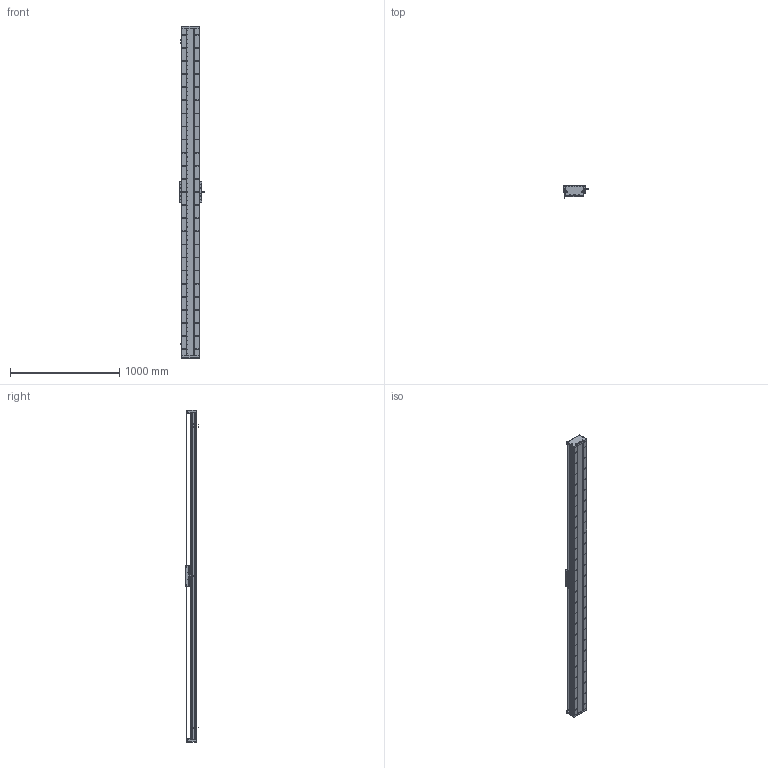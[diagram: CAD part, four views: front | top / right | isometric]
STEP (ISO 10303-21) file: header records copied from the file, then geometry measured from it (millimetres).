
FILE_DESCRIPTION (( 'STEP AP203' ), '1' );
FILE_NAME ('DA-C165-C2-T2760-C010-0.2 直线电机.STEP', '2023-05-11T07:51:21', ( '微软用户' ), ( '微软中国' ), 'SwSTEP 2.0', 'SolidWorks 2019', '' );
FILE_SCHEMA (( 'CONFIG_CONTROL_DESIGN' ));
Length unit declared in the file: millimetre
Products named in the file (18): 葩璃 DA95-GT-T-00^IU-CU165-L 菁釱絳寢_T; 复件 XD-U-02L 磁栅尺^DA-C165-C2-T-C010-0.2-N 直线电机_T; 葩璃 CKM01-W075-TRL^DA-C165-C2-T-C010-0.2-N 眻盄萇儂; 珨极趙賑雄怢啣wf-C2; IU-CU165-L-00 菁釱_L3000; 复件 CU165钢带组件^DA-C165-C2-T-C010-0.2-N 直线电机; 复件 DA95-HXJ-00 缓冲橡胶^DA-C165-C2-T-C010-0.2-N 直线电机; 复件 六角薄螺母 M3^DA-C165-C2-T-C010-0.2-N 直线电机_GB_FASTENER_NUT_STNAB M3-C; 复件 DMA-010-0.2 读数头^DA-C165-C2-T-C010-0.2-N 直线电机; IU-CU165-L 菁釱絳寢; DA-C165-C2-T2760-C010-0.2 眻盄萇儂; 复件 DA165-GD-DG-H-00 端盖^复件 CU165钢带组件_DA-C165-C2-T-C010-0.2-N 直线电机; 复件 DA165-GDLK-00 钢带拉块^复件 CU165钢带组件_DA-C165-C2-T-C010-0.2-N 直线电机; 复件 CKM02-W075-C1C2-TP-3.0 一体电机-C2^DA-C165-C2-T-C010-0.2-N 直线电机; 复件 DA165-GD-1860-002-00 钢带盖板^复件 CU165钢带组件_DA-C165-C2-T-C010-0.2-N 直线电机; 复件 DA165-GYP-00 光电感应片^DA-C165-C2-T-C010-0.2-N 直线电机; 葩璃 PM-T45^DA-C165-C2-T-C010-0.2-N 眻盄萇儂; 复件 DA165-GDYK-00 钢带压块^复件 CU165钢带组件_DA-C165-C2-T-C010-0.2-N 直线电机
Assembly tree (33 placements, depth 3):
  DA-C165-C2-T2760-C010-0.2 眻盄萇儂
    IU-CU165-L 菁釱絳寢
      IU-CU165-L-00 菁釱_L3000
      葩璃 DA95-GT-T-00^IU-CU165-L 菁釱絳寢_T  x4
    复件 XD-U-02L 磁栅尺^DA-C165-C2-T-C010-0.2-N 直线电机_T
    葩璃 PM-T45^DA-C165-C2-T-C010-0.2-N 眻盄萇儂  x3
    葩璃 CKM01-W075-TRL^DA-C165-C2-T-C010-0.2-N 眻盄萇儂
    复件 CU165钢带组件^DA-C165-C2-T-C010-0.2-N 直线电机
      复件 DA165-GD-DG-H-00 端盖^复件 CU165钢带组件_DA-C165-C2-T-C010-0.2-N 直线电机  x2
      复件 DA165-GDYK-00 钢带压块^复件 CU165钢带组件_DA-C165-C2-T-C010-0.2-N 直线电机  x2
      复件 DA165-GD-1860-002-00 钢带盖板^复件 CU165钢带组件_DA-C165-C2-T-C010-0.2-N 直线电机
      复件 DA165-GDLK-00 钢带拉块^复件 CU165钢带组件_DA-C165-C2-T-C010-0.2-N 直线电机  x2
    复件 DA95-HXJ-00 缓冲橡胶^DA-C165-C2-T-C010-0.2-N 直线电机  x4
    复件 DA165-GYP-00 光电感应片^DA-C165-C2-T-C010-0.2-N 直线电机
    复件 DMA-010-0.2 读数头^DA-C165-C2-T-C010-0.2-N 直线电机
    复件 CKM02-W075-C1C2-TP-3.0 一体电机-C2^DA-C165-C2-T-C010-0.2-N 直线电机
    复件 六角薄螺母 M3^DA-C165-C2-T-C010-0.2-N 直线电机_GB_FASTENER_NUT_STNAB M3-C  x6
    珨极趙賑雄怢啣wf-C2
Bounding box: 233 x 111.45 x 3040 mm (x, y, z)
Volume: 16584335.1 mm3; surface area: 5035207.7 mm2
Topology: 70 solids, 70 shells, 4087 faces, 12171 edges, 7803 vertices
Faces by surface type: cylinder 2493, plane 1114, cone 430, torus 46, sphere 4
Entity records: 141343 total; most frequent: CARTESIAN_POINT 39167, ORIENTED_EDGE 21514, DIRECTION 20469, EDGE_CURVE 10757, AXIS2_PLACEMENT_3D 7847, VERTEX_POINT 7039, EDGE_LOOP 4884, LINE 4775
